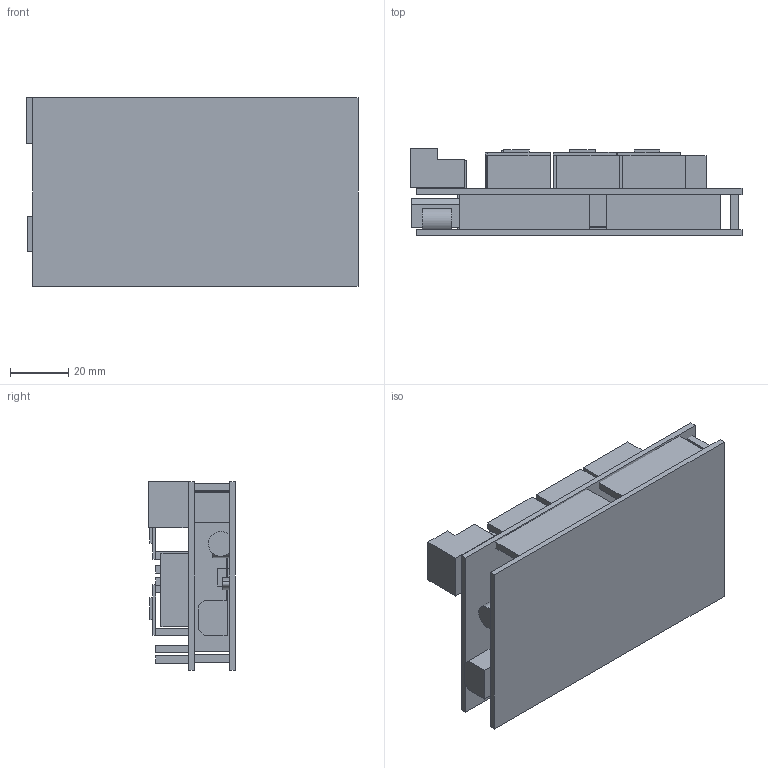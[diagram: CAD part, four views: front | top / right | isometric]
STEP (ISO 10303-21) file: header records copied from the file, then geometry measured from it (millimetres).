
FILE_DESCRIPTION(/* description */ (''),/* implementation_level */ '2;1');
FILE_NAME(/* name */ 'RAMPS',/* time_stamp */ '2019-04-01T20:05:01-03:00',/* author */ (''),/* organization */ (''),/* preprocessor_version */ 'ST-DEVELOPER v16.5',/* originating_system */ '',/* authorisation */ '');
FILE_SCHEMA (('AUTOMOTIVE_DESIGN'));
Length unit declared in the file: millimetre
Products named in the file (1): Document
Bounding box: 114.2 x 29.91 x 65 mm (x, y, z)
Volume: 60934.6 mm3; surface area: 63003 mm2
Topology: 48 solids, 48 shells, 284 faces, 564 edges, 376 vertices
Faces by surface type: plane 276, bspline 8
Entity records: 6368 total; most frequent: CARTESIAN_POINT 1914, ORIENTED_EDGE 1128, EDGE_CURVE 564, B_SPLINE_CURVE_WITH_KNOTS 540, VERTEX_POINT 376, ADVANCED_FACE 284, FACE_OUTER_BOUND 284, EDGE_LOOP 284
